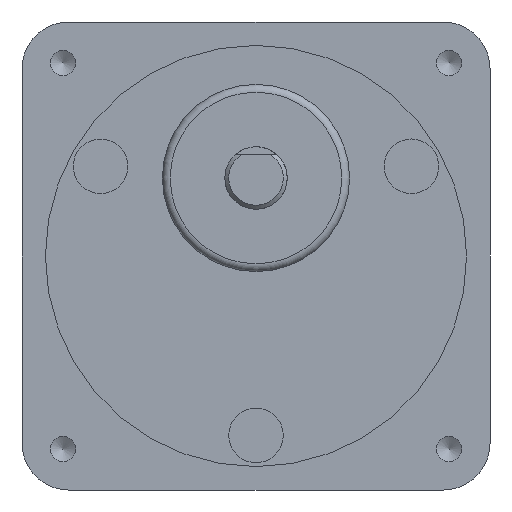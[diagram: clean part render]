
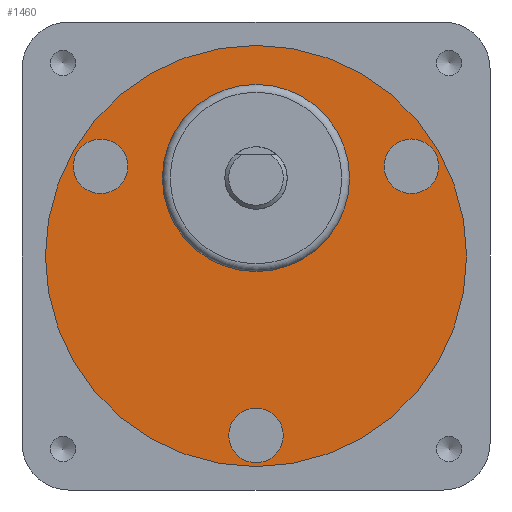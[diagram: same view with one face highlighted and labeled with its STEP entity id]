
A CAD part, front view. The second image highlights one B-rep face of the part: STEP entity #1460.
In plain terms, the highlighted planar face has unit normal (0, -1, 0).
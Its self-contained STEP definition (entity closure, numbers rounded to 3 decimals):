
#123=CARTESIAN_POINT('',(18.169,0.5,14.531));
#124=VERTEX_POINT('',#123);
#125=CARTESIAN_POINT('',(19.919,0.5,11.5));
#126=DIRECTION('',(0.0,1.0,0.0));
#127=DIRECTION('',(0.5,0.0,-0.866));
#128=AXIS2_PLACEMENT_3D('',#125,#126,#127);
#129=CIRCLE('',#128,3.5);
#130=EDGE_CURVE('',#124,#124,#129,.T.);
#160=CARTESIAN_POINT('',(-21.669,0.5,8.469));
#161=VERTEX_POINT('',#160);
#162=CARTESIAN_POINT('',(-19.919,0.5,11.5));
#163=DIRECTION('',(0.0,1.,0.0));
#164=DIRECTION('',(0.5,0.0,0.866));
#165=AXIS2_PLACEMENT_3D('',#162,#163,#164);
#166=CIRCLE('',#165,3.5);
#167=EDGE_CURVE('',#161,#161,#166,.T.);
#197=CARTESIAN_POINT('',(3.5,0.5,-23.));
#198=VERTEX_POINT('',#197);
#199=CARTESIAN_POINT('',(0.0,0.5,-23.));
#200=DIRECTION('',(0.0,1.0,0.0));
#201=DIRECTION('',(-1.0,0.0,0.0));
#202=AXIS2_PLACEMENT_3D('',#199,#200,#201);
#203=CIRCLE('',#202,3.5);
#204=EDGE_CURVE('',#198,#198,#203,.T.);
#1409=CARTESIAN_POINT('',(27.0,0.5,0.));
#1410=VERTEX_POINT('',#1409);
#1411=CARTESIAN_POINT('',(0.0,0.5,0.0));
#1412=DIRECTION('',(0.0,-1.0,0.0));
#1413=DIRECTION('',(-1.0,0.0,0.0));
#1414=AXIS2_PLACEMENT_3D('',#1411,#1412,#1413);
#1415=CIRCLE('',#1414,27.0);
#1416=EDGE_CURVE('',#1410,#1410,#1415,.T.);
#1432=CARTESIAN_POINT('',(0.0,0.5,0.0));
#1433=DIRECTION('',(0.0,1.0,0.0));
#1434=DIRECTION('',(0.0,0.0,1.0));
#1435=AXIS2_PLACEMENT_3D('',#1432,#1433,#1434);
#1436=PLANE('',#1435);
#1437=ORIENTED_EDGE('',*,*,#1416,.T.);
#1438=EDGE_LOOP('',(#1437));
#1439=FACE_OUTER_BOUND('',#1438,.T.);
#1440=ORIENTED_EDGE('',*,*,#130,.T.);
#1441=EDGE_LOOP('',(#1440));
#1442=FACE_BOUND('',#1441,.T.);
#1443=ORIENTED_EDGE('',*,*,#167,.T.);
#1444=EDGE_LOOP('',(#1443));
#1445=FACE_BOUND('',#1444,.T.);
#1446=ORIENTED_EDGE('',*,*,#204,.T.);
#1447=EDGE_LOOP('',(#1446));
#1448=FACE_BOUND('',#1447,.T.);
#1449=CARTESIAN_POINT('',(12.,0.5,10.));
#1450=VERTEX_POINT('',#1449);
#1451=CARTESIAN_POINT('',(0.0,0.5,10.0));
#1452=DIRECTION('',(0.0,-1.0,0.0));
#1453=DIRECTION('',(-1.0,0.0,0.0));
#1454=AXIS2_PLACEMENT_3D('',#1451,#1452,#1453);
#1455=CIRCLE('',#1454,12.);
#1456=EDGE_CURVE('',#1450,#1450,#1455,.T.);
#1457=ORIENTED_EDGE('',*,*,#1456,.F.);
#1458=EDGE_LOOP('',(#1457));
#1459=FACE_BOUND('',#1458,.T.);
#1460=ADVANCED_FACE('',(#1439,#1442,#1445,#1448,#1459),#1436,.F.);
